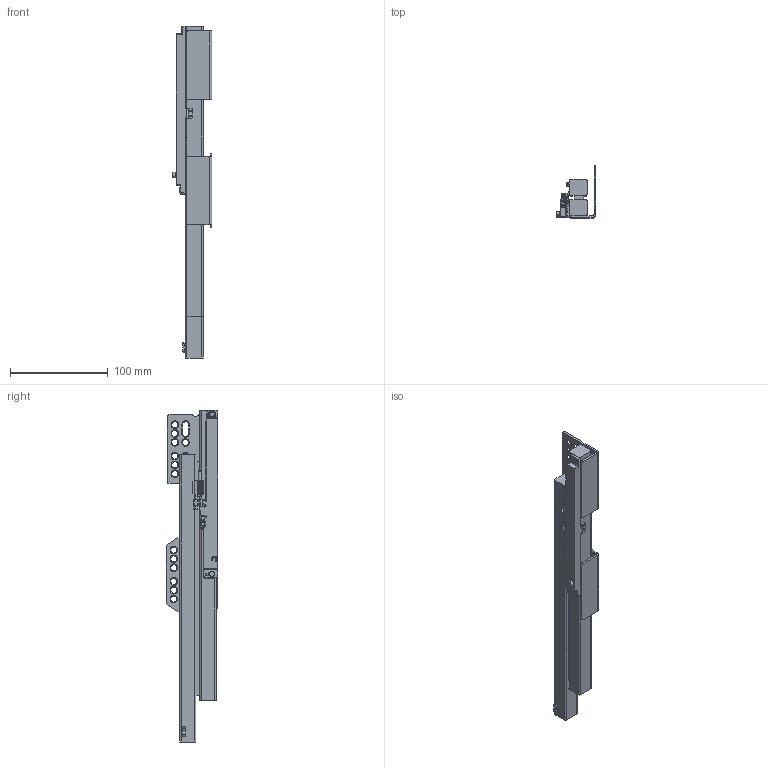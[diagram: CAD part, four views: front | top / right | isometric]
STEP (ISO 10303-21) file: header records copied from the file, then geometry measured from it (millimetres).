
FILE_DESCRIPTION (( 'STEP AP203' ), '1' );
FILE_NAME ('HB013504GX-R(闭合).STEP', '2025-05-13T05:59:29', ( '微软用户' ), ( '微软中国' ), 'SwSTEP 2.0', 'SolidWorks 2021', '' );
FILE_SCHEMA (( 'CONFIG_CONTROL_DESIGN' ));
Products named in the file (4): HB013504GX-R(敕磁); M覃誹儂凳R; HB413504H-1-R(敕磁); 瑰貌寢OFH01-GG-GB.STEP
Assembly tree (3 placements, depth 2):
  HB013504GX-R(敕磁)
    HB413504H-1-R(敕磁)
    瑰貌寢OFH01-GG-GB.STEP
    M覃誹儂凳R
Bounding box: 40.83 x 53 x 338.9 mm (x, y, z)
Volume: 226107.6 mm3; surface area: 65291.3 mm2
Topology: 3 solids, 30 shells, 1458 faces, 3836 edges, 2429 vertices
Faces by surface type: plane 495, cylinder 485, bspline 268, torus 158, cone 44, sphere 8
Entity records: 82589 total; most frequent: CARTESIAN_POINT 48306, ORIENTED_EDGE 7616, DIRECTION 6413, EDGE_CURVE 3808, VERTEX_POINT 2427, AXIS2_PLACEMENT_3D 2315, VECTOR 1783, LINE 1783
